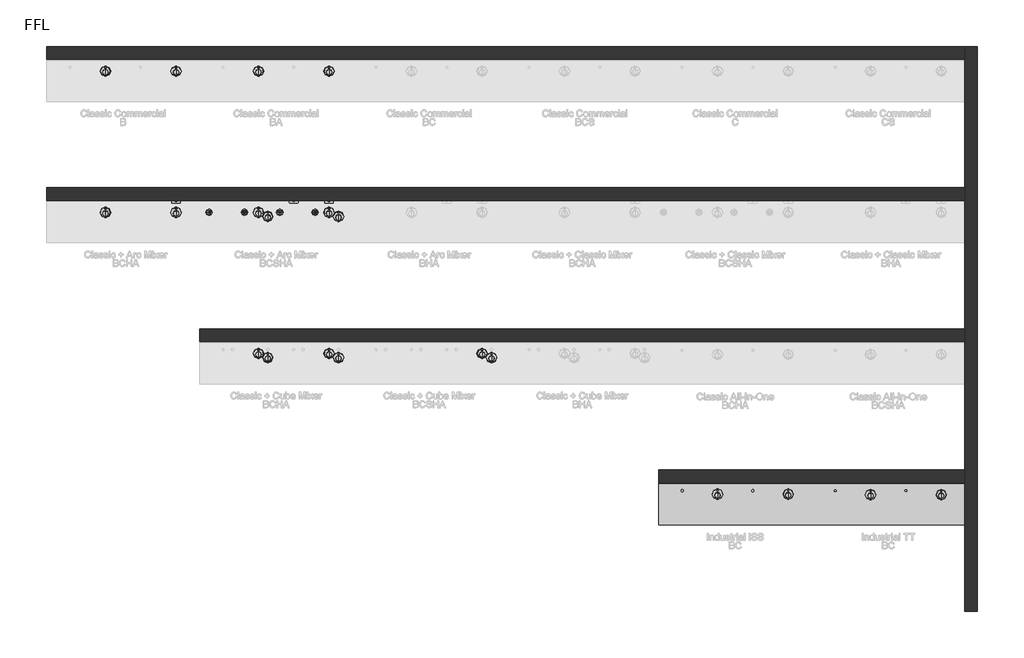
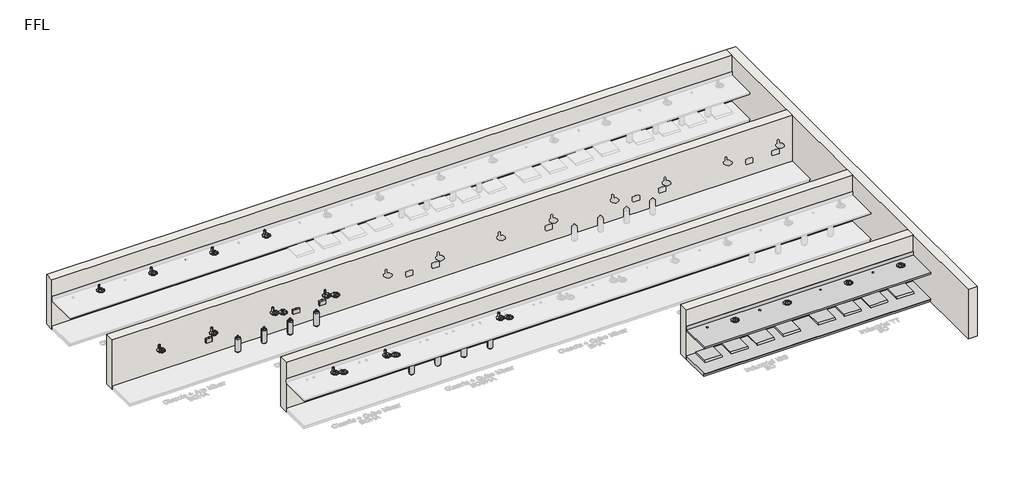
# One storey, part 1 of 13: 50 flow terminals, 5 walls, 2 furniture elements.
"""IFC4 building model written with IfcOpenShell, lengths in millimetres."""

from ifc_helpers import new_model, si_unit, frame, origin, origin_with_axes, place, context, project, spatial, polyline, circle_curve, outline, extrude, faceted_brep, transform, mapped, element, save
from ifc_brep_helpers import plane_surface, revolved_surface, advanced_brep
from components import flow_terminal_100_people_matte_black_1da322c1, flow_terminal_100_people_matte_black_e59bcbac, bcs_and_bc_6de74493, bright_chrome_13082571, bright_chrome_f48ec22c, co2_gas_cylinder_20234e14, generic_plinth_900mm_54fedcf1

model = new_model("IFC4")

# Units and contexts
model_context = context("Model", 3, world=origin())
ifc_project = project(units=[si_unit("LENGTHUNIT", "METRE", prefix="MILLI")], contexts=[model_context])

# Site, building, storey
site = spatial("IfcSite", under=ifc_project)
building = spatial("IfcBuilding", under=site)
storey = spatial("IfcBuildingStorey", under=building, Name="FFL", Elevation=0.0)

# Flow terminals
placement = place(None, origin())
flow_terminal_100_people_matte_black_shape = flow_terminal_100_people_matte_black_1da322c1(model_context)
element("IfcFlowTerminal", 1, ObjectType="PlumFixt_Zip Commercial_Classic_Arc Mixer_BCSHA : 100 People - Gloss Black", at=placement, inside=storey, context=model_context, shape_type="MappedRepresentation", body=[
    mapped(flow_terminal_100_people_matte_black_shape, transform((-1720.7342081, 4562.7393304, 0.0), x_axis=(1.0, 0.0, 0.0), y_axis=(0.0, 1.0, 0.0), z_axis=(0.0, 0.0, 1.0))),
])
element("IfcFlowTerminal", 2, ObjectType="PlumFixt_Zip Commercial_Classic_B : 100 People - Gloss Black", at=placement, inside=storey, context=model_context, shape_type="MappedRepresentation", body=[
    mapped(flow_terminal_100_people_matte_black_shape, transform((-4970.7352929, 7562.7393304, 0.0), x_axis=(1.0, 0.0, 0.0), y_axis=(0.0, 1.0, 0.0), z_axis=(0.0, 0.0, 1.0))),
])
element("IfcFlowTerminal", 3, ObjectType="PlumFixt_Zip Commercial_Classic_BA : 100 People - Gloss Black", at=placement, inside=storey, context=model_context, shape_type="MappedRepresentation", body=[
    mapped(flow_terminal_100_people_matte_black_shape, transform((-1720.7352929, 7562.7393304, 0.0), x_axis=(1.0, 0.0, 0.0), y_axis=(0.0, 1.0, 0.0), z_axis=(0.0, 0.0, 1.0))),
])
element("IfcFlowTerminal", 4, ObjectType="PlumFixt_Zip Commercial_Classic_Cube Mixer_BCSHA : 100 People - Gloss Black", at=placement, inside=storey, context=model_context, shape_type="MappedRepresentation", body=[
    mapped(flow_terminal_100_people_matte_black_shape, transform((1529.2647071, 1562.7393304, 0.0), x_axis=(1.0, 0.0, 0.0), y_axis=(0.0, 1.0, 0.0), z_axis=(0.0, 0.0, 1.0))),
])
flow_terminal_100_people_matte_black_2_shape = flow_terminal_100_people_matte_black_e59bcbac(model_context)
element("IfcFlowTerminal", 5, ObjectType="PlumFixt_Zip Commercial_Industrial TT_BC : 100 People - Gloss Black", at=placement, inside=storey, context=model_context, shape_type="MappedRepresentation", body=[
    mapped(flow_terminal_100_people_matte_black_2_shape, transform((11278.7765025, -1437.2606696, 0.0), x_axis=(1.0, 0.0, 0.0), y_axis=(0.0, 1.0, 0.0), z_axis=(0.0, 0.0, 1.0))),
])
element("IfcFlowTerminal", 6, ObjectType="PlumFixt_Zip Commercial_Industrial ISS_BC : 100 People - Gloss Black", at=placement, inside=storey, context=model_context, shape_type="MappedRepresentation", body=[
    mapped(flow_terminal_100_people_matte_black_2_shape, transform((8028.7765025, -1437.2606696, 0.0), x_axis=(1.0, 0.0, 0.0), y_axis=(0.0, 1.0, 0.0), z_axis=(0.0, 0.0, 1.0))),
])
element("IfcFlowTerminal", 7, ObjectType="PlumFixt_Zip Commercial_Classic_Arc Mixer_BCSHA : 100 People - Matte Black", at=placement, inside=storey, context=model_context, shape_type="MappedRepresentation", body=[
    mapped(flow_terminal_100_people_matte_black_shape, transform((-970.7342081, 4562.7393304, 0.0), x_axis=(1.0, 0.0, 0.0), y_axis=(0.0, 1.0, 0.0), z_axis=(0.0, 0.0, 1.0))),
])
element("IfcFlowTerminal", 8, ObjectType="PlumFixt_Zip Commercial_Classic_B : 100 People - Matte Black", at=placement, inside=storey, context=model_context, shape_type="MappedRepresentation", body=[
    mapped(flow_terminal_100_people_matte_black_shape, transform((-4220.7352929, 7562.7393304, 0.0), x_axis=(1.0, 0.0, 0.0), y_axis=(0.0, 1.0, 0.0), z_axis=(0.0, 0.0, 1.0))),
])
element("IfcFlowTerminal", 9, ObjectType="PlumFixt_Zip Commercial_Classic_BA : 100 People - Matte Black", at=placement, inside=storey, context=model_context, shape_type="MappedRepresentation", body=[
    mapped(flow_terminal_100_people_matte_black_shape, transform((-970.7352929, 7562.7393304, 0.0), x_axis=(1.0, 0.0, 0.0), y_axis=(0.0, 1.0, 0.0), z_axis=(0.0, 0.0, 1.0))),
])
element("IfcFlowTerminal", 10, ObjectType="PlumFixt_Zip Commercial_Classic_Cube Mixer_BCSHA : 100 People - Matte Black", at=placement, inside=storey, context=model_context, shape_type="MappedRepresentation", body=[
    mapped(flow_terminal_100_people_matte_black_shape, transform((2279.2647071, 1562.7393304, 0.0), x_axis=(1.0, 0.0, 0.0), y_axis=(0.0, 1.0, 0.0), z_axis=(0.0, 0.0, 1.0))),
])
element("IfcFlowTerminal", 11, ObjectType="PlumFixt_Zip Commercial_Classic_Cube Mixer_BCHA : 100 People - Matte Black", at=placement, inside=storey, context=model_context, shape_type="MappedRepresentation", body=[
    mapped(flow_terminal_100_people_matte_black_shape, transform((-970.7352929, 1562.7393304, 0.0), x_axis=(1.0, 0.0, 0.0), y_axis=(0.0, 1.0, 0.0), z_axis=(0.0, 0.0, 1.0))),
])
element("IfcFlowTerminal", 12, ObjectType="PlumFixt_Zip Commercial_Classic_Arc Mixer_BCHA : 100 People - Matte Black", at=placement, inside=storey, context=model_context, shape_type="MappedRepresentation", body=[
    mapped(flow_terminal_100_people_matte_black_shape, transform((-4220.7342081, 4562.7393304, 0.0), x_axis=(1.0, 0.0, 0.0), y_axis=(0.0, 1.0, 0.0), z_axis=(0.0, 0.0, 1.0))),
])
element("IfcFlowTerminal", 13, ObjectType="PlumFixt_Zip Commercial_Industrial TT_BC : 100 People - Matte Black", at=placement, inside=storey, context=model_context, shape_type="MappedRepresentation", body=[
    mapped(flow_terminal_100_people_matte_black_2_shape, transform((12028.7765025, -1437.2606696, 0.0), x_axis=(1.0, 0.0, 0.0), y_axis=(0.0, 1.0, 0.0), z_axis=(0.0, 0.0, 1.0))),
])
element("IfcFlowTerminal", 14, ObjectType="PlumFixt_Zip Commercial_Industrial ISS_BC : 100 People - Matte Black", at=placement, inside=storey, context=model_context, shape_type="MappedRepresentation", body=[
    mapped(flow_terminal_100_people_matte_black_2_shape, transform((8778.7765025, -1437.2606696, 0.0), x_axis=(1.0, 0.0, 0.0), y_axis=(0.0, 1.0, 0.0), z_axis=(0.0, 0.0, 1.0))),
])
bcs_and_bc_shape = bcs_and_bc_6de74493(model_context)
element("IfcFlowTerminal", 15, ObjectType="z_PlumFixt_Zip_Vent Tray : BCS and BC", at=placement, inside=storey, context=model_context, shape_type="MappedRepresentation", body=[
    mapped(bcs_and_bc_shape, transform((6528.7765025, -1294.2606696, 100.0), x_axis=(1.0, 0.0, 0.0), y_axis=(0.0, 1.0, 0.0), z_axis=(0.0, 0.0, 1.0))),
])
element("IfcFlowTerminal", 16, ObjectType="z_PlumFixt_Zip_Vent Tray : BCS and BC", at=placement, inside=storey, context=model_context, shape_type="MappedRepresentation", body=[
    mapped(bcs_and_bc_shape, transform((7278.7765025, -1294.2606696, 100.0), x_axis=(1.0, 0.0, 0.0), y_axis=(0.0, 1.0, 0.0), z_axis=(0.0, 0.0, 1.0))),
])
element("IfcFlowTerminal", 17, ObjectType="z_PlumFixt_Zip_Vent Tray : BCS and BC", at=placement, inside=storey, context=model_context, shape_type="MappedRepresentation", body=[
    mapped(bcs_and_bc_shape, transform((8028.7765025, -1294.2606696, 100.0), x_axis=(1.0, 0.0, 0.0), y_axis=(0.0, 1.0, 0.0), z_axis=(0.0, 0.0, 1.0))),
])
element("IfcFlowTerminal", 18, ObjectType="z_PlumFixt_Zip_Vent Tray : BCS and BC", at=placement, inside=storey, context=model_context, shape_type="MappedRepresentation", body=[
    mapped(bcs_and_bc_shape, transform((8778.7765025, -1294.2606696, 100.0), x_axis=(1.0, 0.0, 0.0), y_axis=(0.0, 1.0, 0.0), z_axis=(0.0, 0.0, 1.0))),
])
element("IfcFlowTerminal", 19, ObjectType="z_PlumFixt_Zip_Vent Tray : BCS and BC", at=placement, inside=storey, context=model_context, shape_type="MappedRepresentation", body=[
    mapped(bcs_and_bc_shape, transform((9778.7765025, -1294.2606696, 100.0), x_axis=(1.0, 0.0, 0.0), y_axis=(0.0, 1.0, 0.0), z_axis=(0.0, 0.0, 1.0))),
])
element("IfcFlowTerminal", 20, ObjectType="z_PlumFixt_Zip_Vent Tray : BCS and BC", at=placement, inside=storey, context=model_context, shape_type="MappedRepresentation", body=[
    mapped(bcs_and_bc_shape, transform((10528.7765025, -1294.2606696, 100.0), x_axis=(1.0, 0.0, 0.0), y_axis=(0.0, 1.0, 0.0), z_axis=(0.0, 0.0, 1.0))),
])
element("IfcFlowTerminal", 21, ObjectType="z_PlumFixt_Zip_Vent Tray : BCS and BC", at=placement, inside=storey, context=model_context, shape_type="MappedRepresentation", body=[
    mapped(bcs_and_bc_shape, transform((11278.7765025, -1294.2606696, 100.0), x_axis=(1.0, 0.0, 0.0), y_axis=(0.0, 1.0, 0.0), z_axis=(0.0, 0.0, 1.0))),
])
element("IfcFlowTerminal", 22, ObjectType="z_PlumFixt_Zip_Vent Tray : BCS and BC", at=placement, inside=storey, context=model_context, shape_type="MappedRepresentation", body=[
    mapped(bcs_and_bc_shape, transform((12028.7765025, -1294.2606696, 100.0), x_axis=(1.0, 0.0, 0.0), y_axis=(0.0, 1.0, 0.0), z_axis=(0.0, 0.0, 1.0))),
])
bright_chrome_shape = bright_chrome_13082571(model_context)
element("IfcFlowTerminal", 23, ObjectType="z_PlumFixt_Zip_Font and Tap Riser : Bright Chrome", at=placement, inside=storey, context=model_context, shape_type="MappedRepresentation", body=[
    mapped(bright_chrome_shape, transform((-5720.7352929, 7577.9893304, 900.0), x_axis=(1.0, 0.0, 0.0), y_axis=(0.0, 1.0, 0.0), z_axis=(0.0, 0.0, 1.0))),
])
element("IfcFlowTerminal", 24, ObjectType="z_PlumFixt_Zip_Font and Tap Riser : Bright Chrome", at=placement, inside=storey, context=model_context, shape_type="MappedRepresentation", body=[
    mapped(bright_chrome_shape, transform((-2470.7352929, 7577.9893304, 900.0), x_axis=(1.0, 0.0, 0.0), y_axis=(0.0, 1.0, 0.0), z_axis=(0.0, 0.0, 1.0))),
])
element("IfcFlowTerminal", 25, ObjectType="z_PlumFixt_Zip_Font and Tap Riser : Bright Chrome", at=placement, inside=storey, context=model_context, shape_type="MappedRepresentation", body=[
    mapped(bright_chrome_shape, transform((-5720.7342081, 4577.9893304, 900.0), x_axis=(1.0, 0.0, 0.0), y_axis=(0.0, 1.0, 0.0), z_axis=(0.0, 0.0, 1.0))),
])
element("IfcFlowTerminal", 26, ObjectType="z_PlumFixt_Zip_Font and Tap Riser : Bright Chrome", at=placement, inside=storey, context=model_context, shape_type="MappedRepresentation", body=[
    mapped(bright_chrome_shape, transform((-2470.7342081, 4577.9893304, 900.0), x_axis=(1.0, 0.0, 0.0), y_axis=(0.0, 1.0, 0.0), z_axis=(0.0, 0.0, 1.0))),
])
element("IfcFlowTerminal", 27, ObjectType="z_PlumFixt_Zip_Font and Tap Riser : Bright Chrome", at=placement, inside=storey, context=model_context, shape_type="MappedRepresentation", body=[
    mapped(bright_chrome_shape, transform((-2470.7352929, 1577.9893304, 900.0), x_axis=(1.0, 0.0, 0.0), y_axis=(0.0, 1.0, 0.0), z_axis=(0.0, 0.0, 1.0))),
])
element("IfcFlowTerminal", 28, ObjectType="z_PlumFixt_Zip_Font and Tap Riser : Bright Chrome", at=placement, inside=storey, context=model_context, shape_type="MappedRepresentation", body=[
    mapped(bright_chrome_shape, transform((-4220.7352929, 7577.9893304, 900.0), x_axis=(1.0, 0.0, 0.0), y_axis=(0.0, 1.0, 0.0), z_axis=(0.0, 0.0, 1.0))),
])
element("IfcFlowTerminal", 29, ObjectType="z_PlumFixt_Zip_Font and Tap Riser : Bright Chrome", at=placement, inside=storey, context=model_context, shape_type="MappedRepresentation", body=[
    mapped(bright_chrome_shape, transform((-970.7352929, 7577.9893304, 900.0), x_axis=(1.0, 0.0, 0.0), y_axis=(0.0, 1.0, 0.0), z_axis=(0.0, 0.0, 1.0))),
])
element("IfcFlowTerminal", 30, ObjectType="z_PlumFixt_Zip_Font and Tap Riser : Bright Chrome", at=placement, inside=storey, context=model_context, shape_type="MappedRepresentation", body=[
    mapped(bright_chrome_shape, transform((-4220.7342081, 4577.9893304, 900.0), x_axis=(1.0, 0.0, 0.0), y_axis=(0.0, 1.0, 0.0), z_axis=(0.0, 0.0, 1.0))),
])
element("IfcFlowTerminal", 31, ObjectType="z_PlumFixt_Zip_Font and Tap Riser : Bright Chrome", at=placement, inside=storey, context=model_context, shape_type="MappedRepresentation", body=[
    mapped(bright_chrome_shape, transform((-970.7342081, 4577.9893304, 900.0), x_axis=(1.0, 0.0, 0.0), y_axis=(0.0, 1.0, 0.0), z_axis=(0.0, 0.0, 1.0))),
])
element("IfcFlowTerminal", 32, ObjectType="z_PlumFixt_Zip_Font and Tap Riser : Bright Chrome", at=placement, inside=storey, context=model_context, shape_type="MappedRepresentation", body=[
    mapped(bright_chrome_shape, transform((-970.7352929, 1577.9893304, 900.0), x_axis=(1.0, 0.0, 0.0), y_axis=(0.0, 1.0, 0.0), z_axis=(0.0, 0.0, 1.0))),
])
element("IfcFlowTerminal", 33, ObjectType="z_PlumFixt_Zip_Font and Tap Riser : Bright Chrome", at=placement, inside=storey, context=model_context, shape_type="MappedRepresentation", body=[
    mapped(bright_chrome_shape, transform((2279.2647071, 1577.9893304, 900.0), x_axis=(1.0, 0.0, 0.0), y_axis=(0.0, 1.0, 0.0), z_axis=(0.0, 0.0, 1.0))),
])
bright_chrome_2_shape = bright_chrome_f48ec22c(model_context)
element("IfcFlowTerminal", 34, ObjectType="z_PlumFixt_Zip_Font : Bright Chrome", at=placement, inside=storey, context=model_context, shape_type="MappedRepresentation", body=[
    mapped(bright_chrome_2_shape, transform((10528.7765025, -1422.0106696, 900.0), x_axis=(0.9999999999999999, 0.0, 0.0), y_axis=(0.0, 0.9999999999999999, 0.0), z_axis=(0.0, 0.0, 1.0))),
])
element("IfcFlowTerminal", 35, ObjectType="z_PlumFixt_Zip_Font : Bright Chrome", at=placement, inside=storey, context=model_context, shape_type="MappedRepresentation", body=[
    mapped(bright_chrome_2_shape, transform((7278.7765025, -1411.0106696, 900.0), x_axis=(1.0000000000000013, 0.0, 0.0), y_axis=(0.0, 1.0000000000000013, 0.0), z_axis=(0.0, 0.0, 1.0))),
])
element("IfcFlowTerminal", 36, ObjectType="z_PlumFixt_Zip_Font : Bright Chrome", at=placement, inside=storey, context=model_context, shape_type="MappedRepresentation", body=[
    mapped(bright_chrome_2_shape, transform((12028.7765025, -1422.0106696, 900.0), x_axis=(0.9999999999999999, 0.0, 0.0), y_axis=(0.0, 0.9999999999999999, 0.0), z_axis=(0.0, 0.0, 1.0))),
])
element("IfcFlowTerminal", 37, ObjectType="z_PlumFixt_Zip_Font : Bright Chrome", at=placement, inside=storey, context=model_context, shape_type="MappedRepresentation", body=[
    mapped(bright_chrome_2_shape, transform((8778.7765025, -1411.0106696, 900.0), x_axis=(1.0000000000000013, 0.0, 0.0), y_axis=(0.0, 1.0000000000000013, 0.0), z_axis=(0.0, 0.0, 1.0))),
])
element("IfcFlowTerminal", 38, ObjectType="z_PlumFixt_Zip_Font : Brushed Chrome", at=placement, inside=storey, context=model_context, shape_type="MappedRepresentation", body=[
    mapped(bright_chrome_2_shape, transform((-2270.7352929, 1491.2393304, 900.0), x_axis=(1.0, 0.0, 0.0), y_axis=(0.0, 1.0, 0.0), z_axis=(0.0, 0.0, 1.0))),
])
element("IfcFlowTerminal", 39, ObjectType="z_PlumFixt_Zip_Font : Brushed Chrome", at=placement, inside=storey, context=model_context, shape_type="MappedRepresentation", body=[
    mapped(bright_chrome_2_shape, transform((-2270.7342081, 4491.2393304, 900.0), x_axis=(0.9999999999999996, 0.0, 0.0), y_axis=(0.0, 0.9999999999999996, 0.0), z_axis=(0.0, 0.0, 1.0))),
])
co2_gas_cylinder_shape = co2_gas_cylinder_20234e14(model_context)
element("IfcFlowTerminal", 40, ObjectType="z_PlumFixt_Zip_CO2 Gas Cylinder : CO2 Gas Cylinder", at=placement, inside=storey, context=model_context, shape_type="MappedRepresentation", body=[
    mapped(co2_gas_cylinder_shape, transform((-3515.7342081, 4509.2393304, 100.0), x_axis=(-1.0, 0.0, 0.0), y_axis=(0.0, -1.0, 0.0), z_axis=(0.0, 0.0, 1.0))),
])
element("IfcFlowTerminal", 41, ObjectType="z_PlumFixt_Zip_CO2 Gas Cylinder : CO2 Gas Cylinder", at=placement, inside=storey, context=model_context, shape_type="MappedRepresentation", body=[
    mapped(co2_gas_cylinder_shape, transform((-2765.7342081, 4509.2393304, 100.0), x_axis=(-1.0, 0.0, 0.0), y_axis=(0.0, -1.0, 0.0), z_axis=(0.0, 0.0, 1.0))),
])
element("IfcFlowTerminal", 42, ObjectType="z_PlumFixt_Zip_CO2 Gas Cylinder : CO2 Gas Cylinder", at=placement, inside=storey, context=model_context, shape_type="MappedRepresentation", body=[
    mapped(co2_gas_cylinder_shape, transform((-2015.7342081, 4509.2393304, 100.0), x_axis=(-1.0, 0.0, 0.0), y_axis=(0.0, -1.0, 0.0), z_axis=(0.0, 0.0, 1.0))),
])
element("IfcFlowTerminal", 43, ObjectType="z_PlumFixt_Zip_CO2 Gas Cylinder : CO2 Gas Cylinder", at=placement, inside=storey, context=model_context, shape_type="MappedRepresentation", body=[
    mapped(co2_gas_cylinder_shape, transform((-1265.7342081, 4509.2393304, 100.0), x_axis=(-1.0, 0.0, 0.0), y_axis=(0.0, -1.0, 0.0), z_axis=(0.0, 0.0, 1.0))),
])
element("IfcFlowTerminal", 44, ObjectType="z_PlumFixt_Zip_CO2 Gas Cylinder : CO2 Gas Cylinder", at=placement, inside=storey, context=model_context, shape_type="MappedRepresentation", body=[
    mapped(co2_gas_cylinder_shape, transform((-265.7352929, 1509.2393304, 100.0), x_axis=(-1.0, 0.0, 0.0), y_axis=(0.0, -1.0, 0.0), z_axis=(0.0, 0.0, 1.0))),
])
element("IfcFlowTerminal", 45, ObjectType="z_PlumFixt_Zip_CO2 Gas Cylinder : CO2 Gas Cylinder", at=placement, inside=storey, context=model_context, shape_type="MappedRepresentation", body=[
    mapped(co2_gas_cylinder_shape, transform((484.2647071, 1509.2393304, 100.0), x_axis=(-1.0, 0.0, 0.0), y_axis=(0.0, -1.0, 0.0), z_axis=(0.0, 0.0, 1.0))),
])
element("IfcFlowTerminal", 46, ObjectType="z_PlumFixt_Zip_CO2 Gas Cylinder : CO2 Gas Cylinder", at=placement, inside=storey, context=model_context, shape_type="MappedRepresentation", body=[
    mapped(co2_gas_cylinder_shape, transform((1234.2647071, 1509.2393304, 100.0), x_axis=(-1.0, 0.0, 0.0), y_axis=(0.0, -1.0, 0.0), z_axis=(0.0, 0.0, 1.0))),
])
element("IfcFlowTerminal", 47, ObjectType="z_PlumFixt_Zip_CO2 Gas Cylinder : CO2 Gas Cylinder", at=placement, inside=storey, context=model_context, shape_type="MappedRepresentation", body=[
    mapped(co2_gas_cylinder_shape, transform((1984.2647071, 1509.2393304, 100.0), x_axis=(-1.0, 0.0, 0.0), y_axis=(0.0, -1.0, 0.0), z_axis=(0.0, 0.0, 1.0))),
])
element("IfcFlowTerminal", 48, ObjectType="z_PlumFixt_Zip_Font : Matte Black", at=placement, inside=storey, context=model_context, shape_type="MappedRepresentation", body=[
    mapped(bright_chrome_2_shape, transform((-770.7352929, 1491.2393304, 900.0), x_axis=(1.0, 0.0, 0.0), y_axis=(0.0, 1.0, 0.0), z_axis=(0.0, 0.0, 1.0))),
])
element("IfcFlowTerminal", 49, ObjectType="z_PlumFixt_Zip_Font : Matte Black", at=placement, inside=storey, context=model_context, shape_type="MappedRepresentation", body=[
    mapped(bright_chrome_2_shape, transform((2479.2647071, 1491.2393304, 900.0), x_axis=(1.0000000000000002, 0.0, 0.0), y_axis=(0.0, 1.0000000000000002, 0.0), z_axis=(0.0, 0.0, 1.0))),
])
element("IfcFlowTerminal", 50, ObjectType="z_PlumFixt_Zip_Font : Matte Black", at=placement, inside=storey, context=model_context, shape_type="MappedRepresentation", body=[
    mapped(bright_chrome_2_shape, transform((-770.7342081, 4491.2393304, 900.0), x_axis=(0.9999999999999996, 0.0, 0.0), y_axis=(0.0, 0.9999999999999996, 0.0), z_axis=(0.0, 0.0, 1.0))),
])

# Furniture
element("IfcFurniture", 51, ObjectType="Counter Top : 900mm Depth", at=placement, inside=storey, context=model_context, shape_type="AdvancedBrep", body=[
    advanced_brep(
    [(6029.7765025, -2051.7606696, 900.0), (12530.2647071, -2051.7606696, 900.0), (12530.2647071, -1170.8106696, 900.0), (6029.7765025, -1170.8106696, 900.0), (6529.7765025, -1344.7656929, 900.0), (6529.7765025, -1298.7556464, 900.0), (7279.7765025, -1344.7656929, 900.0), (7279.7765025, -1298.7556464, 900.0), (8029.7765025, -1344.7656929, 900.0), (8029.7765025, -1298.7556464, 900.0), (8779.7765025, -1344.7656929, 900.0), (8779.7765025, -1298.7556464, 900.0), (9779.7765025, -1301.7606696, 900.0), (9779.7765025, -1341.7606696, 900.0), (10529.7765025, -1301.7606696, 900.0), (10529.7765025, -1341.7606696, 900.0), (11279.7765025, -1301.7606696, 900.0), (11279.7765025, -1341.7606696, 900.0), (12029.7765025, -1301.7606696, 900.0), (12029.7765025, -1341.7606696, 900.0), (10529.7765025, -1496.5787097, 900.0), (10529.7765025, -1360.1787097, 900.0), (12029.7765025, -1496.5787097, 900.0), (12029.7765025, -1360.1787097, 900.0), (7279.7765025, -1349.1787097, 900.0), (7279.7765025, -1485.5787097, 900.0), (8779.7765025, -1349.1787097, 900.0), (8779.7765025, -1485.5787097, 900.0), (12530.2647071, -1151.7606696, 860.0), (12530.2647071, -2051.7606696, 860.0), (6029.7765025, -2051.7606696, 860.0), (6029.7765025, -1151.7606696, 860.0), (6529.7765025, -1298.7556464, 860.0), (6529.7765025, -1344.7656929, 860.0), (7279.7765025, -1298.7556464, 860.0), (7279.7765025, -1344.7656929, 860.0), (8029.7765025, -1298.7556464, 860.0), (8029.7765025, -1344.7656929, 860.0), (8779.7765025, -1298.7556464, 860.0), (8779.7765025, -1344.7656929, 860.0), (9779.7765025, -1341.7606696, 860.0), (9779.7765025, -1301.7606696, 860.0), (10529.7765025, -1341.7606696, 860.0), (10529.7765025, -1301.7606696, 860.0), (11279.7765025, -1341.7606696, 860.0), (11279.7765025, -1301.7606696, 860.0), (12029.7765025, -1341.7606696, 860.0), (12029.7765025, -1301.7606696, 860.0), (10529.7765025, -1360.1787097, 860.0), (10529.7765025, -1496.5787097, 860.0), (12029.7765025, -1360.1787097, 860.0), (12029.7765025, -1496.5787097, 860.0), (7279.7765025, -1485.5787097, 860.0), (7279.7765025, -1349.1787097, 860.0), (8779.7765025, -1485.5787097, 860.0), (8779.7765025, -1349.1787097, 860.0), (6029.7765025, -1151.7606696, 1001.6), (12530.2647071, -1151.7606696, 1001.6), (6029.7765025, -1170.8106696, 1001.6), (12530.2647071, -1170.8106696, 1001.6)],
    [
        (0, 1),
        (1, 2),
        (2, 3),
        (3, 0),
        (4, 5, circle_curve(frame((6529.7765025, -1321.7606696, 900.0), z_axis=(0.0, 0.0, -1.0), x_axis=(0.0, -1.0000000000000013, 0.0)), 23.0050233)),
        (5, 4, circle_curve(frame((6529.7765025, -1321.7606696, 900.0), z_axis=(0.0, 0.0, -1.0), x_axis=(0.0, -1.0000000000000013, 0.0)), 23.0050233)),
        (6, 7, circle_curve(frame((7279.7765025, -1321.7606696, 900.0), z_axis=(0.0, 0.0, -1.0), x_axis=(0.0, -1.0000000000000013, 0.0)), 23.0050233)),
        (7, 6, circle_curve(frame((7279.7765025, -1321.7606696, 900.0), z_axis=(0.0, 0.0, -1.0), x_axis=(0.0, -1.0000000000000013, 0.0)), 23.0050233)),
        (8, 9, circle_curve(frame((8029.7765025, -1321.7606696, 900.0), z_axis=(0.0, 0.0, -1.0), x_axis=(0.0, -1.0000000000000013, 0.0)), 23.0050233)),
        (9, 8, circle_curve(frame((8029.7765025, -1321.7606696, 900.0), z_axis=(0.0, 0.0, -1.0), x_axis=(0.0, -1.0000000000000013, 0.0)), 23.0050233)),
        (10, 11, circle_curve(frame((8779.7765025, -1321.7606696, 900.0), z_axis=(0.0, 0.0, -1.0), x_axis=(0.0, -1.0000000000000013, 0.0)), 23.0050233)),
        (11, 10, circle_curve(frame((8779.7765025, -1321.7606696, 900.0), z_axis=(0.0, 0.0, -1.0), x_axis=(0.0, -1.0000000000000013, 0.0)), 23.0050233)),
        (12, 13, circle_curve(frame((9779.7765025, -1321.7606696, 900.0), z_axis=(0.0, 0.0, -1.0), x_axis=(0.0, -0.9999999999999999, 0.0)), 20.0)),
        (13, 12, circle_curve(frame((9779.7765025, -1321.7606696, 900.0), z_axis=(0.0, 0.0, -1.0), x_axis=(0.0, -0.9999999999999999, 0.0)), 20.0)),
        (14, 15, circle_curve(frame((10529.7765025, -1321.7606696, 900.0), z_axis=(0.0, 0.0, -1.0), x_axis=(0.0, -0.9999999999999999, 0.0)), 20.0)),
        (15, 14, circle_curve(frame((10529.7765025, -1321.7606696, 900.0), z_axis=(0.0, 0.0, -1.0), x_axis=(0.0, -0.9999999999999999, 0.0)), 20.0)),
        (16, 17, circle_curve(frame((11279.7765025, -1321.7606696, 900.0), z_axis=(0.0, 0.0, -1.0), x_axis=(0.0, -0.9999999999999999, 0.0)), 20.0)),
        (17, 16, circle_curve(frame((11279.7765025, -1321.7606696, 900.0), z_axis=(0.0, 0.0, -1.0), x_axis=(0.0, -0.9999999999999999, 0.0)), 20.0)),
        (18, 19, circle_curve(frame((12029.7765025, -1321.7606696, 900.0), z_axis=(0.0, 0.0, -1.0), x_axis=(0.0, -0.9999999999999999, 0.0)), 20.0)),
        (19, 18, circle_curve(frame((12029.7765025, -1321.7606696, 900.0), z_axis=(0.0, 0.0, -1.0), x_axis=(0.0, -0.9999999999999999, 0.0)), 20.0)),
        (20, 21, circle_curve(frame((10529.7765025, -1428.3787097, 900.0), z_axis=(0.0, 0.0, -1.0), x_axis=(0.0, -0.9999999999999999, 0.0)), 68.2)),
        (21, 20, circle_curve(frame((10529.7765025, -1428.3787097, 900.0), z_axis=(0.0, 0.0, -1.0), x_axis=(0.0, -0.9999999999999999, 0.0)), 68.2)),
        (22, 23, circle_curve(frame((12029.7765025, -1428.3787097, 900.0), z_axis=(0.0, 0.0, -1.0), x_axis=(0.0, -0.9999999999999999, 0.0)), 68.2)),
        (23, 22, circle_curve(frame((12029.7765025, -1428.3787097, 900.0), z_axis=(0.0, 0.0, -1.0), x_axis=(0.0, -0.9999999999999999, 0.0)), 68.2)),
        (24, 25, circle_curve(frame((7279.7765025, -1417.3787097, 900.0), z_axis=(0.0, 0.0, -1.0), x_axis=(0.0, -1.0000000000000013, 0.0)), 68.2)),
        (25, 24, circle_curve(frame((7279.7765025, -1417.3787097, 900.0), z_axis=(0.0, 0.0, -1.0), x_axis=(0.0, -1.0000000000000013, 0.0)), 68.2)),
        (26, 27, circle_curve(frame((8779.7765025, -1417.3787097, 900.0), z_axis=(0.0, 0.0, -1.0), x_axis=(0.0, -1.0000000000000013, 0.0)), 68.2)),
        (27, 26, circle_curve(frame((8779.7765025, -1417.3787097, 900.0), z_axis=(0.0, 0.0, -1.0), x_axis=(0.0, -1.0000000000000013, 0.0)), 68.2)),
        (28, 29),
        (29, 30),
        (30, 31),
        (31, 28),
        (32, 33, circle_curve(frame((6529.7765025, -1321.7606696, 860.0), z_axis=(0.0, 0.0, 1.0), x_axis=(0.0, -1.0000000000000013, 0.0)), 23.0050233)),
        (33, 32, circle_curve(frame((6529.7765025, -1321.7606696, 860.0), z_axis=(0.0, 0.0, 1.0), x_axis=(0.0, -1.0000000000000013, 0.0)), 23.0050233)),
        (34, 35, circle_curve(frame((7279.7765025, -1321.7606696, 860.0), z_axis=(0.0, 0.0, 1.0), x_axis=(0.0, -1.0000000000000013, 0.0)), 23.0050233)),
        (35, 34, circle_curve(frame((7279.7765025, -1321.7606696, 860.0), z_axis=(0.0, 0.0, 1.0), x_axis=(0.0, -1.0000000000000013, 0.0)), 23.0050233)),
        (36, 37, circle_curve(frame((8029.7765025, -1321.7606696, 860.0), z_axis=(0.0, 0.0, 1.0), x_axis=(0.0, -1.0000000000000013, 0.0)), 23.0050233)),
        (37, 36, circle_curve(frame((8029.7765025, -1321.7606696, 860.0), z_axis=(0.0, 0.0, 1.0), x_axis=(0.0, -1.0000000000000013, 0.0)), 23.0050233)),
        (38, 39, circle_curve(frame((8779.7765025, -1321.7606696, 860.0), z_axis=(0.0, 0.0, 1.0), x_axis=(0.0, -1.0000000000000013, 0.0)), 23.0050233)),
        (39, 38, circle_curve(frame((8779.7765025, -1321.7606696, 860.0), z_axis=(0.0, 0.0, 1.0), x_axis=(0.0, -1.0000000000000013, 0.0)), 23.0050233)),
        (40, 41, circle_curve(frame((9779.7765025, -1321.7606696, 860.0), z_axis=(0.0, 0.0, 1.0), x_axis=(0.0, -0.9999999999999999, 0.0)), 20.0)),
        (41, 40, circle_curve(frame((9779.7765025, -1321.7606696, 860.0), z_axis=(0.0, 0.0, 1.0), x_axis=(0.0, -0.9999999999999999, 0.0)), 20.0)),
        (42, 43, circle_curve(frame((10529.7765025, -1321.7606696, 860.0), z_axis=(0.0, 0.0, 1.0), x_axis=(0.0, -0.9999999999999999, 0.0)), 20.0)),
        (43, 42, circle_curve(frame((10529.7765025, -1321.7606696, 860.0), z_axis=(0.0, 0.0, 1.0), x_axis=(0.0, -0.9999999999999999, 0.0)), 20.0)),
        (44, 45, circle_curve(frame((11279.7765025, -1321.7606696, 860.0), z_axis=(0.0, 0.0, 1.0), x_axis=(0.0, -0.9999999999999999, 0.0)), 20.0)),
        (45, 44, circle_curve(frame((11279.7765025, -1321.7606696, 860.0), z_axis=(0.0, 0.0, 1.0), x_axis=(0.0, -0.9999999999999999, 0.0)), 20.0)),
        (46, 47, circle_curve(frame((12029.7765025, -1321.7606696, 860.0), z_axis=(0.0, 0.0, 1.0), x_axis=(0.0, -0.9999999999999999, 0.0)), 20.0)),
        (47, 46, circle_curve(frame((12029.7765025, -1321.7606696, 860.0), z_axis=(0.0, 0.0, 1.0), x_axis=(0.0, -0.9999999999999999, 0.0)), 20.0)),
        (48, 49, circle_curve(frame((10529.7765025, -1428.3787097, 860.0), z_axis=(0.0, 0.0, 1.0), x_axis=(0.0, -0.9999999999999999, 0.0)), 68.2)),
        (49, 48, circle_curve(frame((10529.7765025, -1428.3787097, 860.0), z_axis=(0.0, 0.0, 1.0), x_axis=(0.0, -0.9999999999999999, 0.0)), 68.2)),
        (50, 51, circle_curve(frame((12029.7765025, -1428.3787097, 860.0), z_axis=(0.0, 0.0, 1.0), x_axis=(0.0, -0.9999999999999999, 0.0)), 68.2)),
        (51, 50, circle_curve(frame((12029.7765025, -1428.3787097, 860.0), z_axis=(0.0, 0.0, 1.0), x_axis=(0.0, -0.9999999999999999, 0.0)), 68.2)),
        (52, 53, circle_curve(frame((7279.7765025, -1417.3787097, 860.0), z_axis=(0.0, 0.0, 1.0), x_axis=(0.0, -1.0000000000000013, 0.0)), 68.2)),
        (53, 52, circle_curve(frame((7279.7765025, -1417.3787097, 860.0), z_axis=(0.0, 0.0, 1.0), x_axis=(0.0, -1.0000000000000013, 0.0)), 68.2)),
        (54, 55, circle_curve(frame((8779.7765025, -1417.3787097, 860.0), z_axis=(0.0, 0.0, 1.0), x_axis=(0.0, -1.0000000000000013, 0.0)), 68.2)),
        (55, 54, circle_curve(frame((8779.7765025, -1417.3787097, 860.0), z_axis=(0.0, 0.0, 1.0), x_axis=(0.0, -1.0000000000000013, 0.0)), 68.2)),
        (31, 56),
        (56, 57),
        (57, 28),
        (3, 58),
        (58, 56),
        (30, 0),
        (29, 1),
        (57, 59),
        (59, 2),
        (58, 59),
        (4, 33),
        (32, 5),
        (6, 35),
        (34, 7),
        (8, 37),
        (36, 9),
        (10, 39),
        (38, 11),
        (12, 41),
        (40, 13),
        (14, 43),
        (42, 15),
        (16, 45),
        (44, 17),
        (18, 47),
        (46, 19),
        (20, 49),
        (48, 21),
        (22, 51),
        (50, 23),
        (24, 53),
        (52, 25),
        (26, 55),
        (54, 27),
    ],
    [
        plane_surface(frame((6029.7765025, -1151.7606696, 900.0), z_axis=(0.0, 0.0, 1.0), x_axis=(-1.0, 0.0, 0.0))),
        plane_surface(frame((6029.7765025, -1151.7606696, 860.0), z_axis=(0.0, 0.0, -1.0), x_axis=(1.0, 0.0, 0.0))),
        plane_surface(frame((12530.2647071, -1151.7606696, 900.0), z_axis=(0.0, 1.0, 0.0), x_axis=(0.0, 0.0, -1.0))),
        plane_surface(frame((6029.7765025, -1151.7606696, 900.0), z_axis=(-1.0, 0.0, 0.0), x_axis=(0.0, 0.0, -1.0))),
        plane_surface(frame((6029.7765025, -2051.7606696, 900.0), z_axis=(0.0, -1.0, 0.0), x_axis=(0.0, 0.0, -1.0))),
        plane_surface(frame((12530.2647071, -2051.7606696, 900.0), z_axis=(1.0, 0.0, 0.0), x_axis=(0.0, 0.0, -1.0))),
        plane_surface(frame((6029.7765025, -1151.7606696, 1001.6), z_axis=(0.0, 0.0, 1.0), x_axis=(0.0, -1.0, 0.0))),
        plane_surface(frame((6029.7765025, -1170.8106696, 1001.6), z_axis=(0.0, -1.0, 0.0), x_axis=(0.0, 0.0, -1.0))),
        revolved_surface(polyline([(6529.7765025, -1344.7656929, 860.0), (6529.7765025, -1344.7656929, 900.0)]), (6529.7765025, -1321.7606696, 905.9736354), (0.0, 0.0, -1.0)),
        revolved_surface(polyline([(7279.7765025, -1344.7656929, 860.0), (7279.7765025, -1344.7656929, 900.0)]), (7279.7765025, -1321.7606696, 905.9736354), (0.0, 0.0, -1.0)),
        revolved_surface(polyline([(8029.7765025, -1344.7656929, 860.0), (8029.7765025, -1344.7656929, 900.0)]), (8029.7765025, -1321.7606696, 905.9736354), (0.0, 0.0, -1.0)),
        revolved_surface(polyline([(8779.7765025, -1344.7656929, 860.0), (8779.7765025, -1344.7656929, 900.0)]), (8779.7765025, -1321.7606696, 905.9736354), (0.0, 0.0, -1.0)),
        revolved_surface(polyline([(9779.7765025, -1341.7606696, 860.0), (9779.7765025, -1341.7606696, 900.0)]), (9779.7765025, -1321.7606696, 900.0), (0.0, 0.0, -1.0)),
        revolved_surface(polyline([(10529.7765025, -1341.7606696, 860.0), (10529.7765025, -1341.7606696, 900.0)]), (10529.7765025, -1321.7606696, 900.0), (0.0, 0.0, -1.0)),
        revolved_surface(polyline([(11279.7765025, -1341.7606696, 860.0), (11279.7765025, -1341.7606696, 900.0)]), (11279.7765025, -1321.7606696, 900.0), (0.0, 0.0, -1.0)),
        revolved_surface(polyline([(12029.7765025, -1341.7606696, 860.0), (12029.7765025, -1341.7606696, 900.0)]), (12029.7765025, -1321.7606696, 900.0), (0.0, 0.0, -1.0)),
        revolved_surface(polyline([(10529.7765025, -1496.5787097, 860.0), (10529.7765025, -1496.5787097, 900.0)]), (10529.7765025, -1428.3787097, 950.0), (0.0, 0.0, -1.0)),
        revolved_surface(polyline([(12029.7765025, -1496.5787097, 860.0), (12029.7765025, -1496.5787097, 900.0)]), (12029.7765025, -1428.3787097, 950.0), (0.0, 0.0, -1.0)),
        revolved_surface(polyline([(7279.7765025, -1485.5787097, 860.0), (7279.7765025, -1485.5787097, 900.0)]), (7279.7765025, -1417.3787097, 950.0), (0.0, 0.0, -1.0)),
        revolved_surface(polyline([(8779.7765025, -1485.5787097, 860.0), (8779.7765025, -1485.5787097, 900.0)]), (8779.7765025, -1417.3787097, 950.0), (0.0, 0.0, -1.0)),
    ],
    [
        (0, [[1, 2, 3, 4], [5, 6], [7, 8], [9, 10], [11, 12], [13, 14], [15, 16], [17, 18], [19, 20], [21, 22], [23, 24], [25, 26], [27, 28]]),
        (1, [[29, 30, 31, 32], [33, 34], [35, 36], [37, 38], [39, 40], [41, 42], [43, 44], [45, 46], [47, 48], [49, 50], [51, 52], [53, 54], [55, 56]]),
        (2, [[-32, 57, 58, 59]]),
        (3, [[-4, 60, 61, -57, -31, 62]]),
        (4, [[-1, -62, -30, 63]]),
        (5, [[-2, -63, -29, -59, 64, 65]]),
        (6, [[-58, -61, 66, -64]]),
        (7, [[-3, -65, -66, -60]]),
        (8, [[-5, 67, -33, 68]]),
        (8, [[-6, -68, -34, -67]]),
        (9, [[-7, 69, -35, 70]]),
        (9, [[-8, -70, -36, -69]]),
        (10, [[-9, 71, -37, 72]]),
        (10, [[-10, -72, -38, -71]]),
        (11, [[-11, 73, -39, 74]]),
        (11, [[-12, -74, -40, -73]]),
        (12, [[75, -41, 76, -13]]),
        (12, [[-75, -14, -76, -42]]),
        (13, [[77, -43, 78, -15]]),
        (13, [[-77, -16, -78, -44]]),
        (14, [[79, -45, 80, -17]]),
        (14, [[-79, -18, -80, -46]]),
        (15, [[81, -47, 82, -19]]),
        (15, [[-81, -20, -82, -48]]),
        (16, [[83, -49, 84, -21]]),
        (16, [[-83, -22, -84, -50]]),
        (17, [[85, -51, 86, -23]]),
        (17, [[-85, -24, -86, -52]]),
        (18, [[87, -53, 88, -25]]),
        (18, [[-87, -26, -88, -54]]),
        (19, [[89, -55, 90, -27]]),
        (19, [[-89, -28, -90, -56]]),
    ],
),
])
generic_plinth_900mm_shape = generic_plinth_900mm_54fedcf1(model_context)
element("IfcFurniture", 52, ObjectType="Generic Plinth : 900mm", at=placement, inside=storey, context=model_context, shape_type="MappedRepresentation", body=[
    mapped(generic_plinth_900mm_shape, transform((9261.2828999, -1151.7606696, 0.0), x_axis=(1.0, 0.0, 0.0), y_axis=(0.0, 1.0, 0.0), z_axis=(0.0, 0.0, 1.0))),
])

# Walls
element("IfcWall", 53, ObjectType="Double brick - 270", at=placement, inside=storey, context=model_context, shape_type="Brep", body=[
    faceted_brep([(12800.2647071, -3881.7606696, 0.0), (12800.2647071, 8118.2393304, 0.0), (12800.2647071, 8118.2393304, 1500.0), (12800.2647071, -3881.7606696, 1500.0), (12530.2647071, -3881.7606696, 0.0), (12530.2647071, -3881.7606696, 1500.0), (12530.2647071, -1151.7606696, 1500.0), (12530.2647071, -881.7606696, 1500.0), (12530.2647071, 1848.2393304, 1500.0), (12530.2647071, 2118.2393304, 1500.0), (12530.2647071, 4848.2393304, 1500.0), (12530.2647071, 5118.2393304, 1500.0), (12530.2647071, 7848.2393304, 1500.0), (12530.2647071, 8118.2393304, 1500.0), (12530.2647071, 8118.2393304, 0.0), (12530.2647071, 7848.2393304, 0.0), (12530.2647071, 5118.2393304, 0.0), (12530.2647071, 4848.2393304, 0.0), (12530.2647071, 2118.2393304, 0.0), (12530.2647071, 1848.2393304, 0.0), (12530.2647071, -881.7606696, 0.0), (12530.2647071, -1151.7606696, 0.0)], [[[0, 1, 2, 3]], [[4, 5, 6, 7, 8, 9, 10, 11, 12, 13, 14, 15, 16, 17, 18, 19, 20, 21]], [[1, 0, 4, 21, 20, 19, 18, 17, 16, 15, 14]], [[3, 2, 13, 12, 11, 10, 9, 8, 7, 6, 5]], [[0, 3, 5, 4]], [[2, 1, 14, 13]]]),
])
element("IfcWall", 54, ObjectType="Double brick - 270", at=placement, inside=storey, context=model_context, shape_type="SweptSolid", body=[
    extrude(outline(polyline([(12530.2647071, 7848.2393304), (-6969.7352929, 7848.2393304), (-6969.7352929, 8118.2393304), (12530.2647071, 8118.2393304), (12530.2647071, 7848.2393304)])), origin_with_axes(), (0.0, 0.0, 1.0), 1500.0),
])
element("IfcWall", 55, ObjectType="Double brick - 270", at=placement, inside=storey, context=model_context, shape_type="SweptSolid", body=[
    extrude(outline(polyline([(12530.2647071, 4848.2393304), (-6969.7352929, 4848.2393304), (-6969.7352929, 5118.2393304), (12530.2647071, 5118.2393304), (12530.2647071, 4848.2393304)])), origin_with_axes(), (0.0, 0.0, 1.0), 1500.0),
])
element("IfcWall", 56, ObjectType="Double brick - 270", at=placement, inside=storey, context=model_context, shape_type="SweptSolid", body=[
    extrude(outline(polyline([(-3719.7352929, 2118.2393304), (12530.2647071, 2118.2393304), (12530.2647071, 1848.2393304), (-3719.7352929, 1848.2393304), (-3719.7352929, 2118.2393304)])), origin_with_axes(), (0.0, 0.0, 1.0), 1500.0),
])
element("IfcWall", 57, ObjectType="Double brick - 270", at=placement, inside=storey, context=model_context, shape_type="SweptSolid", body=[
    extrude(outline(polyline([(6029.7765025, -881.7606696), (12530.2647071, -881.7606696), (12530.2647071, -1151.7606696), (6029.7765025, -1151.7606696), (6029.7765025, -881.7606696)])), origin_with_axes(), (0.0, 0.0, 1.0), 1500.0),
])

save(model, "model.ifc")
